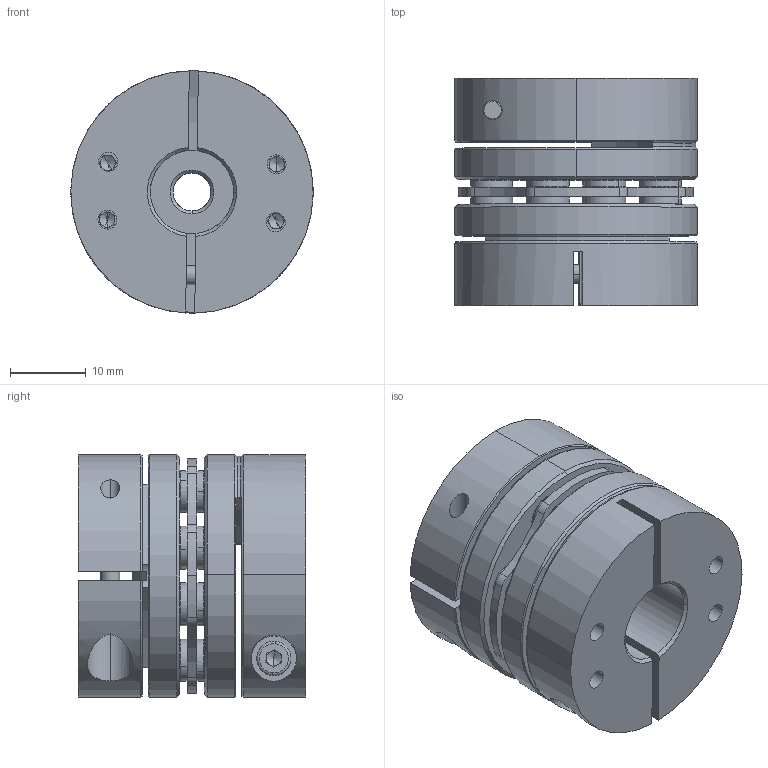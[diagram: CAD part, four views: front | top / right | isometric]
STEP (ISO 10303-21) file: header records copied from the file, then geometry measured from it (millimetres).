
FILE_DESCRIPTION (( 'STEP AP203' ), '1' );
FILE_NAME ('LDG-32-B1-5-11.STEP', '2021-10-28T05:03:25', ( '' ), ( '' ), 'SwSTEP 2.0', 'SolidWorks 2018', '' );
FILE_SCHEMA (( 'CONFIG_CONTROL_DESIGN' ));
Length unit declared in the file: millimetre
Products named in the file (2): 錨璃5^LDG-32蚾饜芞1; LDG-32-B1-5-11
Assembly tree (1 placements, depth 2):
  LDG-32-B1-5-11
    錨璃5^LDG-32蚾饜芞1
Bounding box: 32 x 30 x 32 mm (x, y, z)
Volume: 18358.3 mm3; surface area: 13287 mm2
Topology: 1 solids, 11 shells, 795 faces, 1967 edges, 1216 vertices
Faces by surface type: cylinder 301, plane 244, cone 230, torus 20
Entity records: 24193 total; most frequent: CARTESIAN_POINT 4474, DIRECTION 4465, ORIENTED_EDGE 3878, EDGE_CURVE 1939, AXIS2_PLACEMENT_3D 1819, VERTEX_POINT 1216, CIRCLE 1020, EDGE_LOOP 939
